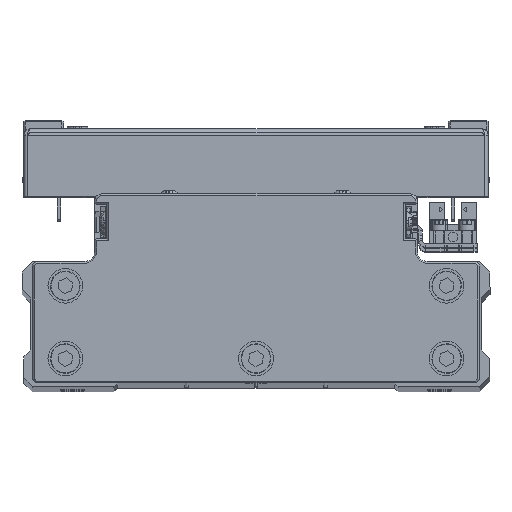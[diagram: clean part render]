
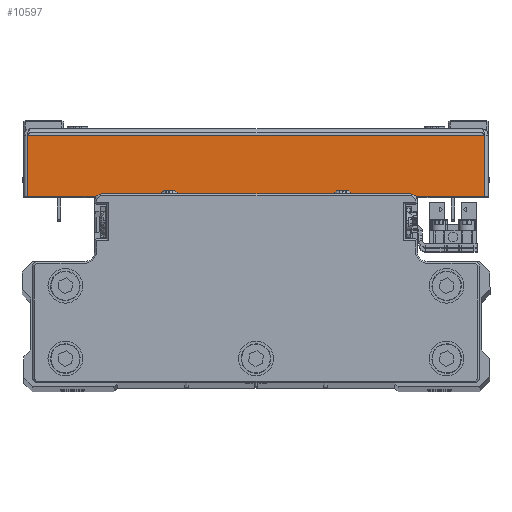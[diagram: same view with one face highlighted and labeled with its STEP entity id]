
A CAD part, top view. The second image highlights one B-rep face of the part: STEP entity #10597.
In plain terms, the highlighted planar face has unit normal (0, 0, 1) as drawn and (1, 0, 0) by its records, which use the part's own axes.
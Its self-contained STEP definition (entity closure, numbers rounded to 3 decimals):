
#193 = CARTESIAN_POINT ( 'NONE',  ( 100., 0., 0. ) ) ;
#424 = EDGE_CURVE ( 'NONE', #20517, #19844, #28001, .T. ) ;
#2960 = DIRECTION ( 'NONE',  ( 0., 0., 1. ) ) ;
#3742 = VECTOR ( 'NONE', #10905, 1000. ) ;
#5627 = DIRECTION ( 'NONE',  ( 0., 1., 0. ) ) ;
#6538 = AXIS2_PLACEMENT_3D ( 'NONE', #193, #13929, #27652 ) ;
#8935 = LINE ( 'NONE', #22660, #42501 ) ;
#10597 = ADVANCED_FACE ( 'NONE', ( #17282 ), #31032, .F. ) ;
#10827 = EDGE_CURVE ( 'NONE', #30679, #19844, #8935, .T. ) ;
#10905 = DIRECTION ( 'NONE',  ( 0., 1., 0. ) ) ;
#12565 = CARTESIAN_POINT ( 'NONE',  ( 100., 18.5, 65.929 ) ) ;
#12705 = CARTESIAN_POINT ( 'NONE',  ( 100., 18.5, -65.929 ) ) ;
#13929 = DIRECTION ( 'NONE',  ( -1., 0., 0. ) ) ;
#14966 = CARTESIAN_POINT ( 'NONE',  ( 100., 1., -65.929 ) ) ;
#15640 = ORIENTED_EDGE ( 'NONE', *, *, #33632, .F. ) ;
#17282 = FACE_OUTER_BOUND ( 'NONE', #28238, .T. ) ;
#17411 = VECTOR ( 'NONE', #2960, 1000. ) ;
#19844 = VERTEX_POINT ( 'NONE', #12565 ) ;
#20052 = LINE ( 'NONE', #33807, #17411 ) ;
#20517 = VERTEX_POINT ( 'NONE', #35623 ) ;
#22660 = CARTESIAN_POINT ( 'NONE',  ( 100., 18.5, 0. ) ) ;
#22733 = LINE ( 'NONE', #36480, #39008 ) ;
#27064 = ORIENTED_EDGE ( 'NONE', *, *, #10827, .T. ) ;
#27652 = DIRECTION ( 'NONE',  ( 0., -1., 0. ) ) ;
#28001 = LINE ( 'NONE', #41742, #3742 ) ;
#28238 = EDGE_LOOP ( 'NONE', ( #15640, #35812, #27064, #43353 ) ) ;
#30679 = VERTEX_POINT ( 'NONE', #12705 ) ;
#31032 = PLANE ( 'NONE',  #6538 ) ;
#33632 = EDGE_CURVE ( 'NONE', #41254, #20517, #20052, .T. ) ;
#33807 = CARTESIAN_POINT ( 'NONE',  ( 100., 1., 67. ) ) ;
#33956 = EDGE_CURVE ( 'NONE', #41254, #30679, #22733, .T. ) ;
#35623 = CARTESIAN_POINT ( 'NONE',  ( 100., 1., 65.929 ) ) ;
#35812 = ORIENTED_EDGE ( 'NONE', *, *, #33956, .T. ) ;
#36413 = DIRECTION ( 'NONE',  ( 0., 0., 1. ) ) ;
#36480 = CARTESIAN_POINT ( 'NONE',  ( 100., 0., -65.929 ) ) ;
#39008 = VECTOR ( 'NONE', #5627, 1000. ) ;
#41254 = VERTEX_POINT ( 'NONE', #14966 ) ;
#41742 = CARTESIAN_POINT ( 'NONE',  ( 100., 0., 65.929 ) ) ;
#42501 = VECTOR ( 'NONE', #36413, 1000. ) ;
#43353 = ORIENTED_EDGE ( 'NONE', *, *, #424, .F. ) ;
